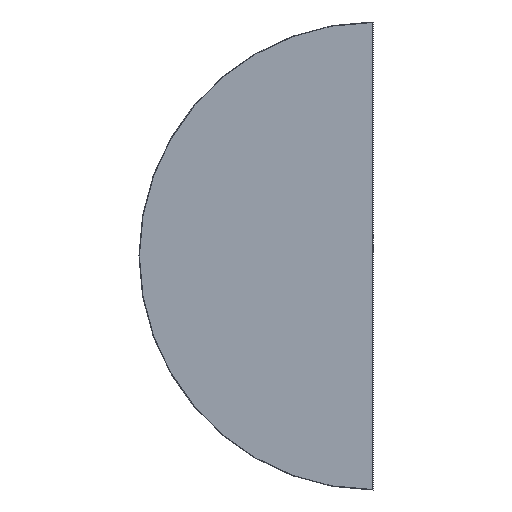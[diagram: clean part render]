
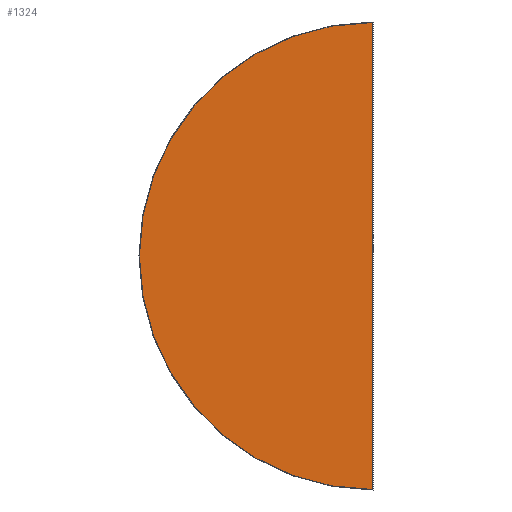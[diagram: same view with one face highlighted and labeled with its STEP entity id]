
A CAD part, front view. The second image highlights one B-rep face of the part: STEP entity #1324.
In plain terms, the highlighted planar face has unit normal (0, -1, 0).
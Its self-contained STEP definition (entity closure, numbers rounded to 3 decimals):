
#45=CIRCLE('',#1434,499.);
#136=ORIENTED_EDGE('',*,*,#512,.T.);
#137=ORIENTED_EDGE('',*,*,#513,.T.);
#512=EDGE_CURVE('',#700,#701,#45,.T.);
#513=EDGE_CURVE('',#701,#700,#826,.T.);
#700=VERTEX_POINT('',#1966);
#701=VERTEX_POINT('',#1967);
#826=LINE('',#1968,#959);
#959=VECTOR('',#1577,1000.);
#1091=EDGE_LOOP('',(#136,#137));
#1187=FACE_BOUND('',#1091,.T.);
#1282=PLANE('',#1433);
#1324=ADVANCED_FACE('',(#1187),#1282,.T.);
#1433=AXIS2_PLACEMENT_3D('',#1964,#1573,#1574);
#1434=AXIS2_PLACEMENT_3D('',#1965,#1575,#1576);
#1573=DIRECTION('',(0.,-1.,0.));
#1574=DIRECTION('',(0.,0.,-1.));
#1575=DIRECTION('',(0.,-1.,0.));
#1576=DIRECTION('',(0.,0.,-1.));
#1577=DIRECTION('',(0.,0.,1.));
#1964=CARTESIAN_POINT('',(528.748,0.,509.752));
#1965=CARTESIAN_POINT('',(528.748,0.,509.752));
#1966=CARTESIAN_POINT('',(527.748,0.,1008.751));
#1967=CARTESIAN_POINT('',(527.748,0.,10.753));
#1968=CARTESIAN_POINT('',(527.748,0.,509.752));
